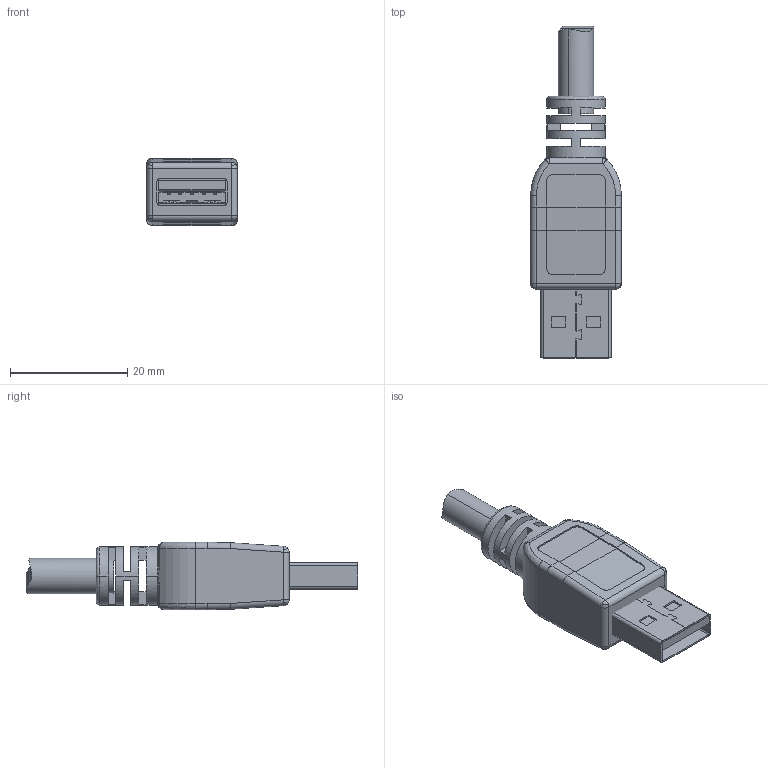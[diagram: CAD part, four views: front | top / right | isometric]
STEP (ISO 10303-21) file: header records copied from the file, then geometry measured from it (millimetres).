
FILE_DESCRIPTION (( 'STEP AP214' ), '1' );
FILE_NAME ('USB3-1.STEP', '2023-06-27T04:57:09', ( '' ), ( '' ), 'SwSTEP 2.0', 'SolidWorks 2021', '' );
FILE_SCHEMA (( 'AUTOMOTIVE_DESIGN' ));
Length unit declared in the file: millimetre
Products named in the file (12): shielding; pins_short; USB3-1 Overmold; USB3.0 A Plug; pins_long_3; MI_Cable_NaN; pins_long_2; insulator; USB3-1; pins_long; pins_long_1; insulator_2
Assembly tree (15 placements, depth 3):
  USB3-1
    USB3.0 A Plug
      insulator
      insulator_2
      shielding
      pins_long
      pins_long_1
      pins_long_2
      pins_long_3
      pins_short  x5
    USB3-1 Overmold
    MI_Cable_NaN
Bounding box: 15.5 x 56.65 x 11.5 mm (x, y, z)
Volume: 5053 mm3; surface area: 4917.4 mm2
Topology: 14 solids, 14 shells, 1064 faces, 3086 edges, 2016 vertices
Faces by surface type: plane 732, cylinder 302, bspline 26, cone 4
Entity records: 38708 total; most frequent: CARTESIAN_POINT 5755, ORIENTED_EDGE 4980, DIRECTION 4666, EDGE_CURVE 2490, VECTOR 1940, LINE 1940, VERTEX_POINT 1632, AXIS2_PLACEMENT_3D 1363
